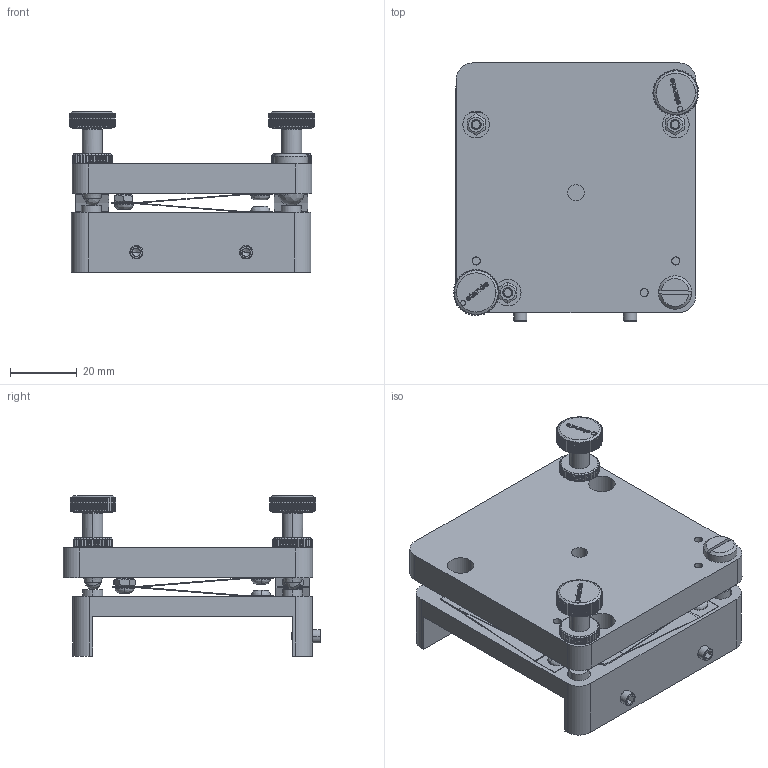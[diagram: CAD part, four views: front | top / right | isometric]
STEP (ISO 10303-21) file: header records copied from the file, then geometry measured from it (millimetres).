
FILE_DESCRIPTION (( 'STEP AP203' ), '1' );
FILE_NAME ('5OM60-SQ2-001.STEP', '2007-09-11T11:09:19', ( 'STANDA' ), ( '' ), 'SwSTEP 2.0', 'SolidWorks 2003240', '' );
FILE_SCHEMA (( 'CONFIG_CONTROL_DESIGN' ));
Products named in the file (1): 5OM60-SQ2-001
Bounding box: 73.79 x 77.52 x 48.21 mm (x, y, z)
Volume: 91159 mm3; surface area: 37501.6 mm2
Topology: 1 solids, 11 shells, 1864 faces, 5249 edges, 3453 vertices
Faces by surface type: plane 792, cylinder 775, bspline 166, cone 131
Entity records: 70038 total; most frequent: CARTESIAN_POINT 24919, ORIENTED_EDGE 10446, DIRECTION 8002, EDGE_CURVE 5223, VERTEX_POINT 3453, AXIS2_PLACEMENT_3D 2888, VECTOR 2226, LINE 2226
